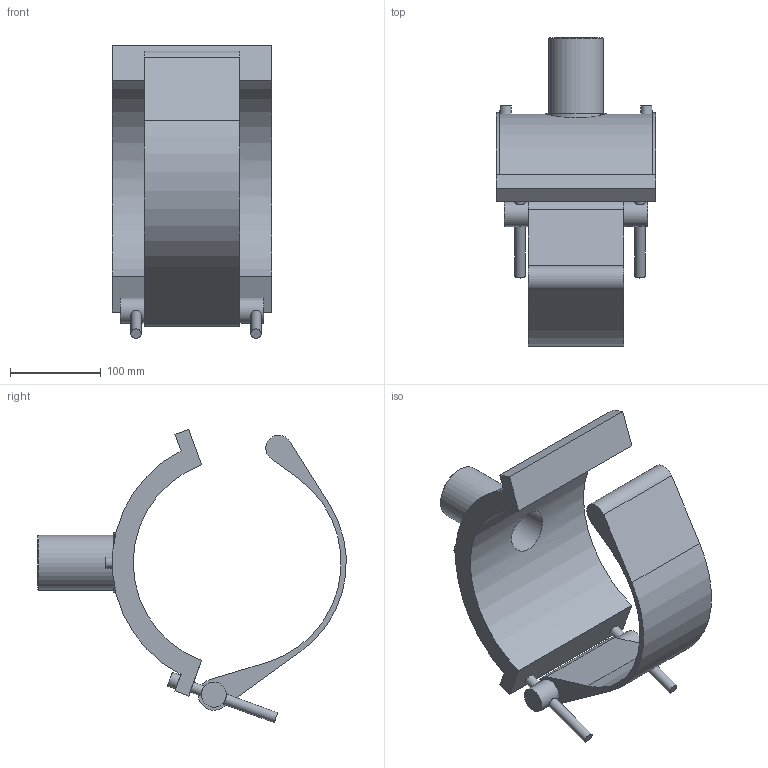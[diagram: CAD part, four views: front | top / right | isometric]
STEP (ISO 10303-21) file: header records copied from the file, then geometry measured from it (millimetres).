
FILE_DESCRIPTION(/* description */ ('PLASSON BRANCH SADDLE 8''''DIPS x 2''''IPS'),/* implementation_level */ '2;1');
FILE_NAME(/* name */ 'C:\Dropbox\KIMPROJECTS-Inventor 2019\99-16-3568-Processing Inch\ASTM ElectroFusion 2021\5958D (2)\5958DB03080020.ipt.stp',/* time_stamp */ '2021-08-30T09:54:18+03:00',/* author */ ('KIM'),/* organization */ (''),/* preprocessor_version */ 'ST-DEVELOPER v17.2',/* originating_system */ 'Autodesk Inventor 2019',/* authorisation */ '');
FILE_SCHEMA (('AUTOMOTIVE_DESIGN { 1 0 10303 214 3 1 1 }'));
Length unit declared in the file: inch
Products named in the file (1): 5958DB03080020
Bounding box: 176.02 x 339.32 x 322.64 mm (x, y, z)
Volume: 1863406.4 mm3; surface area: 285538.2 mm2
Topology: 1 solids, 1 shells, 57 faces, 129 edges, 90 vertices
Faces by surface type: plane 30, cylinder 23, cone 3, torus 1
Full cylindrical faces by diameter (mm): 4 x2, 10 x2, 11.445 x4, 16.023 x2, 27.468 x2, 48.08 x1, 60.1 x1, 66.11 x1
Entity records: 1985 total; most frequent: CARTESIAN_POINT 613, DIRECTION 280, ORIENTED_EDGE 258, EDGE_CURVE 129, AXIS2_PLACEMENT_3D 109, VERTEX_POINT 90, EDGE_LOOP 77, LINE 62
